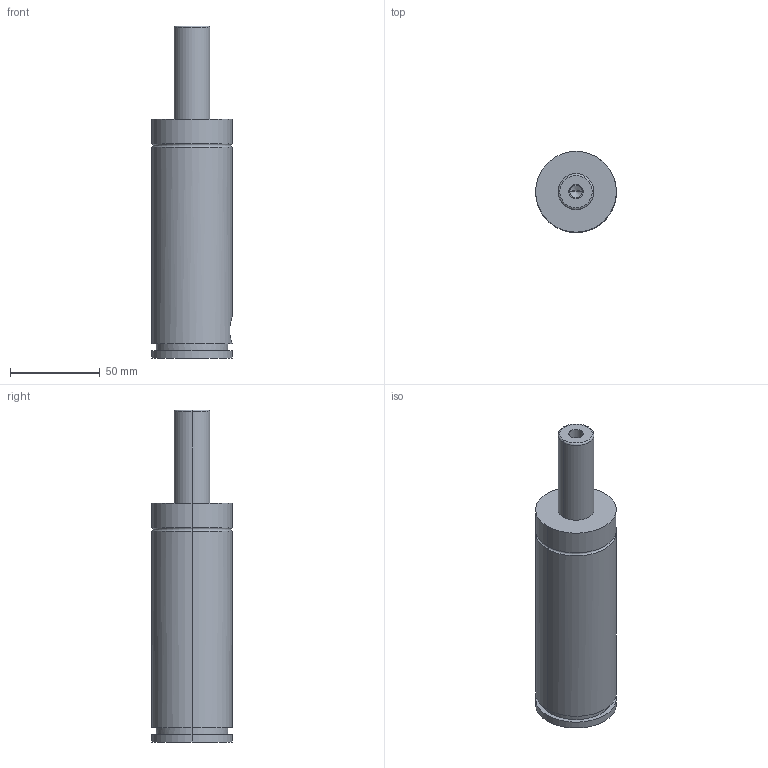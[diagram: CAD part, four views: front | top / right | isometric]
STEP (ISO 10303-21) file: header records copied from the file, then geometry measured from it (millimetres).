
FILE_DESCRIPTION(/* description */ (''),/* implementation_level */ '2;1');
FILE_NAME(/* name */ '3d_gse45-50_03887_r00.stp',/* time_stamp */ '2011-01-10T14:15:19+09:00',/* author */ ('MISUMI'),/* organization */ (''),/* preprocessor_version */ 'ST-DEVELOPER v11',/* originating_system */ 'UGS - NX 5.0',/* authorisation */ '');
FILE_SCHEMA (('CONFIG_CONTROL_DESIGN'));
Length unit declared in the file: millimetre
Products named in the file (1): 3d_gse45-50_03887_r00
Bounding box: 45 x 45 x 185 mm (x, y, z)
Volume: 223669.6 mm3; surface area: 27346.9 mm2
Topology: 1 solids, 1 shells, 57 faces, 122 edges, 77 vertices
Faces by surface type: cylinder 26, plane 21, cone 6, torus 4
Entity records: 1648 total; most frequent: DIRECTION 296, CARTESIAN_POINT 279, ORIENTED_EDGE 240, AXIS2_PLACEMENT_3D 122, EDGE_CURVE 120, VERTEX_POINT 77, EDGE_LOOP 69, CIRCLE 64
